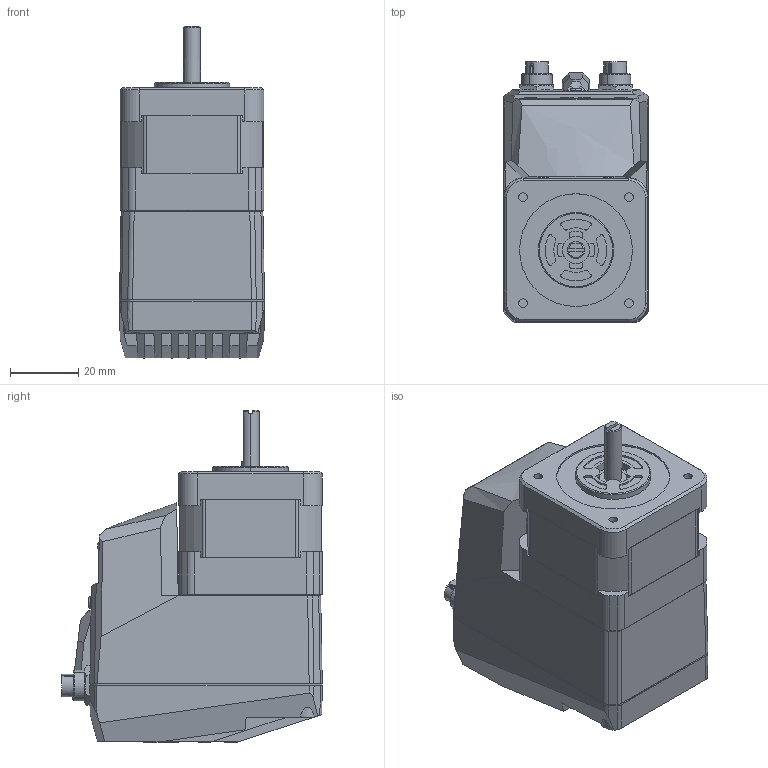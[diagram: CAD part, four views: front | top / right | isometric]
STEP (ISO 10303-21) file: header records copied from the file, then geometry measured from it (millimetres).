
FILE_DESCRIPTION (( 'STEP AP203' ), '1' );
FILE_NAME ('CM1-E-17S30.STEP', '2018-05-18T18:47:08', ( '' ), ( '' ), 'SwSTEP 2.0', 'SolidWorks 2018', '' );
FILE_SCHEMA (( 'CONFIG_CONTROL_DESIGN' ));
Length unit declared in the file: millimetre
Products named in the file (4): CM1-E-NEMA17; CM1-X-17S30-NE13.0.0.1; 92010A018_M3 x 8 METRIC 18-8 SS FLAT HEAD PHIL MACHINE SCREW; CM1-E-17S30
Assembly tree (6 placements, depth 2):
  CM1-E-17S30
    CM1-E-NEMA17
    CM1-X-17S30-NE13.0.0.1
    92010A018_M3 x 8 METRIC 18-8 SS FLAT HEAD PHIL MACHINE SCREW  x4
Bounding box: 42.42 x 76.22 x 97.12 mm (x, y, z)
Volume: 61791.6 mm3; surface area: 51421.7 mm2
Topology: 5 solids, 23 shells, 2506 faces, 8061 edges, 5458 vertices
Faces by surface type: plane 1339, cylinder 693, bspline 289, cone 175, torus 6, sphere 4
Entity records: 118691 total; most frequent: CARTESIAN_POINT 57225, ORIENTED_EDGE 13088, DIRECTION 10777, EDGE_CURVE 7467, VERTEX_POINT 5080, VECTOR 4811, LINE 4811, AXIS2_PLACEMENT_3D 2983
